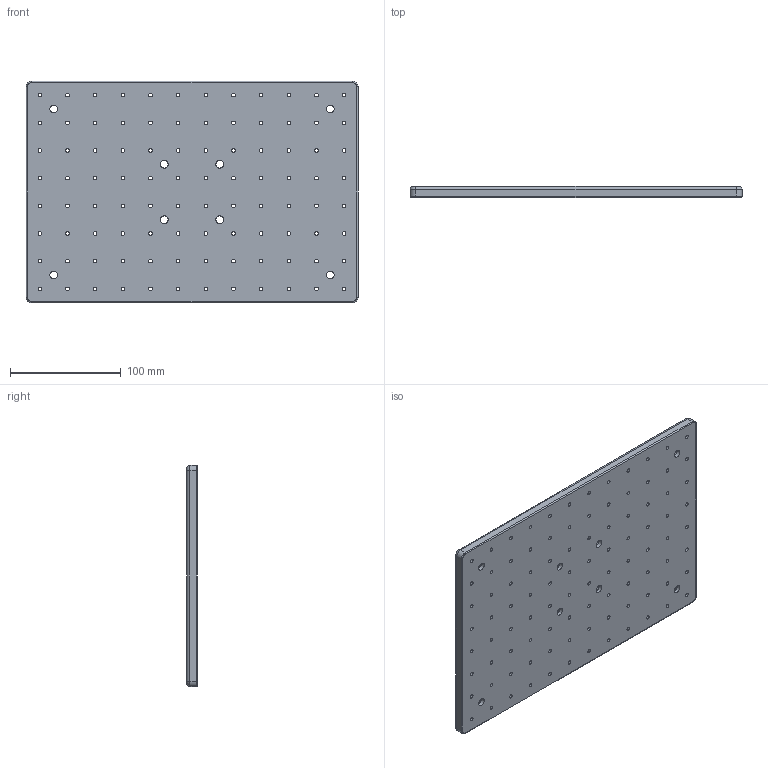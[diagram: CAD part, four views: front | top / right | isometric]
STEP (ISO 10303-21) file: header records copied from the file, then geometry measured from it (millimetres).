
FILE_DESCRIPTION (( 'STEP AP203' ), '1' );
FILE_NAME ('M-PAB-2030-10P.step', '2017-01-10T01:15:24', ( '¦K¬P' ), ( '' ), 'SwSTEP 2.0', 'SolidWorks 2012', '' );
FILE_SCHEMA (( 'CONFIG_CONTROL_DESIGN' ));
Length unit declared in the file: millimetre
Products named in the file (1): M-PAB-2030-10P
Bounding box: 300 x 9.8 x 200 mm (x, y, z)
Volume: 571711.4 mm3; surface area: 137829.5 mm2
Topology: 1 solids, 1 shells, 146 faces, 392 edges, 256 vertices
Faces by surface type: cylinder 124, plane 14, torus 8
Full cylindrical faces by diameter (mm): 3.3 x96, 7 x8, 11 x8
Entity records: 4637 total; most frequent: DIRECTION 830, CARTESIAN_POINT 683, ORIENTED_EDGE 560, EDGE_LOOP 474, AXIS2_PLACEMENT_3D 403, EDGE_CURVE 280, FACE_OUTER_BOUND 258, CIRCLE 256
